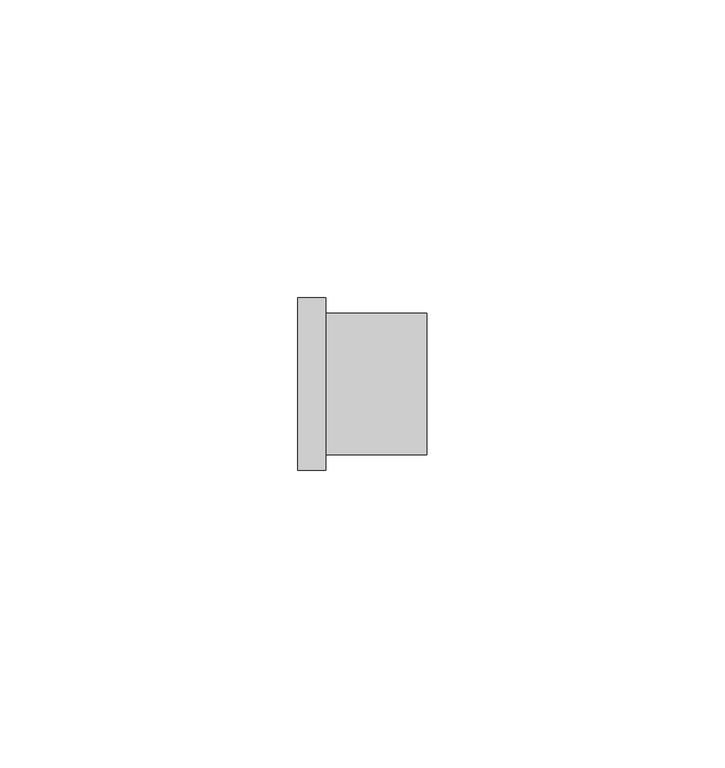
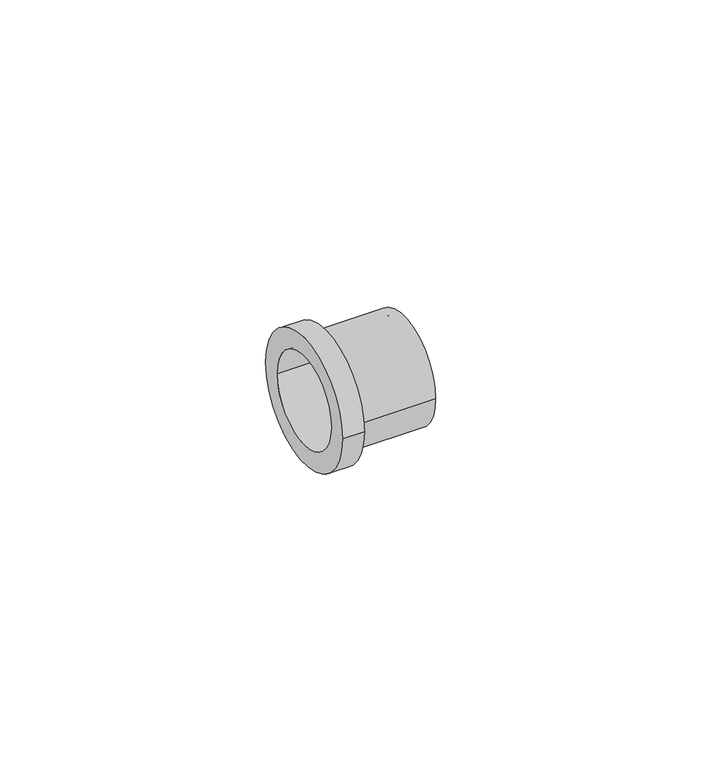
"""IFC4 building model written with IfcOpenShell, lengths in millimetres: pipe fitting geometry, FASTLOC_Sleeve outside : FSL S O DN1."""

from ifc_helpers import new_model, si_unit, frame, origin, place, context, project, spatial, polyline, circle_curve, source, transform, mapped, element, save
from ifc_brep_helpers import plane_surface, cylinder_surface, revolved_surface, advanced_brep


def pipe_fitting_9e10578f(model_context):
    return source(origin(), model_context, "Body", "AdvancedBrep", [
        advanced_brep(
        [(4.7, -14.5, 0.0), (0.0, -14.5, 0.0), (0.0, 14.5, 0.0), (4.7, 14.5, 0.0), (21.7, -11.85, 0.0), (4.7, -11.85, 0.0), (4.7, 11.85, 0.0), (21.7, 11.85, 0.0), (0.0, -10.15, 0.0), (21.7, -10.15, 0.0), (21.7, 10.15, 0.0), (0.0, 10.15, 0.0)],
        [
            (0, 1),
            (1, 2, circle_curve(frame((0.0, 0.0, 0.0), z_axis=(1.0, 0.0, 0.0), x_axis=(0.0, 1.0, 0.0)), 14.5)),
            (2, 3),
            (3, 0, circle_curve(frame((4.7, 0.0, 0.0), z_axis=(-1.0, 0.0, 0.0), x_axis=(0.0, 1.0, 0.0)), 14.5)),
            (4, 5),
            (5, 6, circle_curve(frame((4.7, 0.0, 0.0), z_axis=(1.0, 0.0, 0.0), x_axis=(0.0, 1.0, 0.0)), 11.85)),
            (6, 7),
            (7, 4, circle_curve(frame((21.7, 0.0, 0.0), z_axis=(-1.0, 0.0, 0.0), x_axis=(0.0, 1.0, 0.0)), 11.85)),
            (8, 9),
            (9, 10, circle_curve(frame((21.7, 0.0, 0.0), z_axis=(1.0, 0.0, 0.0), x_axis=(0.0, 1.0, 0.0)), 10.15)),
            (10, 11),
            (11, 8, circle_curve(frame((0.0, 0.0, 0.0), z_axis=(-1.0, 0.0, 0.0), x_axis=(0.0, 1.0, 0.0)), 10.15)),
            (2, 1, circle_curve(frame((0.0, 0.0, 0.0), z_axis=(1.0, 0.0, 0.0), x_axis=(0.0, -1.0, 0.0)), 14.5)),
            (0, 3, circle_curve(frame((4.7, 0.0, 0.0), z_axis=(-1.0, 0.0, 0.0), x_axis=(0.0, -1.0, 0.0)), 14.5)),
            (5, 6, circle_curve(frame((4.7, 0.0, 0.0), z_axis=(-1.0, 0.0, 0.0), x_axis=(0.0, -1.0, 0.0)), 11.85)),
            (4, 7, circle_curve(frame((21.7, 0.0, 0.0), z_axis=(-1.0, 0.0, 0.0), x_axis=(0.0, -1.0, 0.0)), 11.85)),
            (9, 10, circle_curve(frame((21.7, 0.0, 0.0), z_axis=(-1.0, 0.0, 0.0), x_axis=(0.0, -1.0, 0.0)), 10.15)),
            (8, 11, circle_curve(frame((0.0, 0.0, 0.0), z_axis=(-1.0, 0.0, 0.0), x_axis=(0.0, -1.0, 0.0)), 10.15)),
        ],
        [
            cylinder_surface(frame((0.0, 0.0, 0.0), z_axis=(1.0, 0.0, 0.0), x_axis=(0.0, 1.0, 0.0)), 14.5),
            cylinder_surface(frame((0.0, 0.0, 0.0), z_axis=(1.0, 0.0, 0.0), x_axis=(0.0, 1.0, 0.0)), 11.85),
            revolved_surface(polyline([(21.7, 10.15, 0.0), (0.0, 10.15, 0.0)]), (0.0, 0.0, 0.0), (1.0, 0.0, 0.0)),
            cylinder_surface(frame((0.0, 0.0, 0.0), z_axis=(1.0, 0.0, 0.0), x_axis=(0.0, -1.0, 0.0)), 14.5),
            plane_surface(frame((4.7, 0.0, 0.0), z_axis=(1.0, 0.0, 0.0), x_axis=(0.0, -1.0, 0.0))),
            cylinder_surface(frame((0.0, 0.0, 0.0), z_axis=(1.0, 0.0, 0.0), x_axis=(0.0, -1.0, 0.0)), 11.85),
            plane_surface(frame((21.7, 0.0, 0.0), z_axis=(1.0, 0.0, 0.0), x_axis=(0.0, -1.0, 0.0))),
            revolved_surface(polyline([(21.7, -10.15, 0.0), (0.0, -10.15, 0.0)]), (0.0, 0.0, 0.0), (1.0, 0.0, 0.0)),
            plane_surface(frame((0.0, 0.0, 0.0), z_axis=(-1.0, 0.0, 0.0), x_axis=(0.0, -1.0, 0.0))),
        ],
        [
            (0, [[1, 2, 3, 4]]),
            (1, [[5, 6, 7, 8]]),
            (2, [[9, 10, 11, 12]]),
            (3, [[-3, 13, -1, 14]]),
            (4, [[-4, -14], [-6, 15]]),
            (5, [[-7, -15, -5, 16]]),
            (6, [[-8, -16], [-10, 17]]),
            (7, [[-11, -17, -9, 18]]),
            (8, [[-2, -13], [-12, -18]]),
        ],
    ),
    ])


if __name__ == "__main__":
    model = new_model("IFC4")
    model_context = context("Model", 3, world=origin())
    ifc_project = project(units=[si_unit("LENGTHUNIT", "METRE", prefix="MILLI")], contexts=[model_context])
    site = spatial("IfcSite", under=ifc_project)
    building = spatial("IfcBuilding", under=site)
    placement = place(None, origin())
    pipe_fitting_shape = pipe_fitting_9e10578f(model_context)
    element("IfcPipeFitting", 1, ObjectType="FASTLOC_Sleeve outside : FSL S O DN1", at=placement, inside=building, context=model_context, shape_type="MappedRepresentation", body=[
        mapped(pipe_fitting_shape, transform((0.0, 0.0, 0.0), x_axis=(1.0, 0.0, 0.0), y_axis=(0.0, 1.0, 0.0), z_axis=(0.0, 0.0, 1.0))),
    ])
    save(model, "model.ifc")
